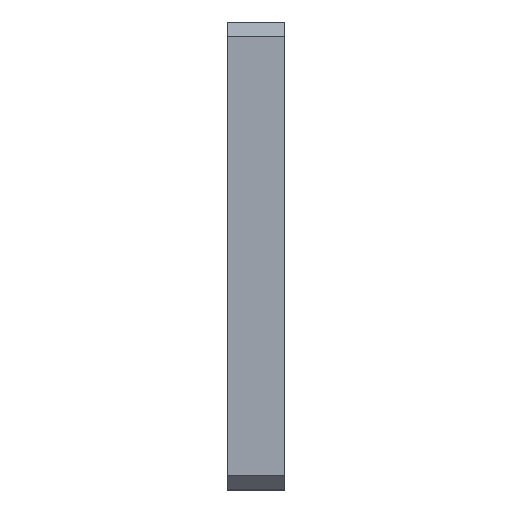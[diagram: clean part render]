
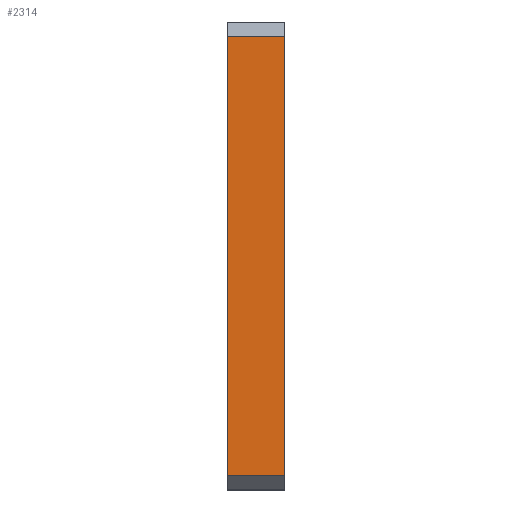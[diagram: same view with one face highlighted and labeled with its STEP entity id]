
A CAD part, left-side view. The second image highlights one B-rep face of the part: STEP entity #2314.
In plain terms, the highlighted planar face has unit normal (-1, 0, 0).
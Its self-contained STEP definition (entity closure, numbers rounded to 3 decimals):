
#120 = ORIENTED_EDGE ( 'NONE', *, *, #738, .T. ) ;
#269 = CARTESIAN_POINT ( 'NONE',  ( -59., 8., 30.5 ) ) ;
#498 = EDGE_CURVE ( 'NONE', #1208, #1476, #2996, .T. ) ;
#534 = PLANE ( 'NONE',  #1113 ) ;
#614 = DIRECTION ( 'NONE',  ( 0., 0., 1. ) ) ;
#639 = CARTESIAN_POINT ( 'NONE',  ( -59., 8., 30.5 ) ) ;
#738 = EDGE_CURVE ( 'NONE', #2734, #1476, #2394, .T. ) ;
#786 = FACE_OUTER_BOUND ( 'NONE', #3308, .T. ) ;
#806 = DIRECTION ( 'NONE',  ( 0., 1., 0. ) ) ;
#849 = VECTOR ( 'NONE', #614, 1000. ) ;
#1000 = LINE ( 'NONE', #3410, #2319 ) ;
#1016 = DIRECTION ( 'NONE',  ( 0., -1., 0. ) ) ;
#1027 = CARTESIAN_POINT ( 'NONE',  ( -59., 0., 32.5 ) ) ;
#1082 = VERTEX_POINT ( 'NONE', #1179 ) ;
#1113 = AXIS2_PLACEMENT_3D ( 'NONE', #2593, #2882, #1316 ) ;
#1149 = VECTOR ( 'NONE', #2575, 1000. ) ;
#1179 = CARTESIAN_POINT ( 'NONE',  ( -59., 0., -30.5 ) ) ;
#1208 = VERTEX_POINT ( 'NONE', #3020 ) ;
#1249 = ORIENTED_EDGE ( 'NONE', *, *, #1945, .T. ) ;
#1304 = VECTOR ( 'NONE', #806, 1000. ) ;
#1316 = DIRECTION ( 'NONE',  ( 0., 0., -1. ) ) ;
#1476 = VERTEX_POINT ( 'NONE', #639 ) ;
#1812 = CARTESIAN_POINT ( 'NONE',  ( -59., 0., 30.5 ) ) ;
#1945 = EDGE_CURVE ( 'NONE', #1208, #1082, #1000, .T. ) ;
#1999 = LINE ( 'NONE', #1027, #1149 ) ;
#2314 = ADVANCED_FACE ( 'NONE', ( #786 ), #534, .F. ) ;
#2319 = VECTOR ( 'NONE', #1016, 1000. ) ;
#2394 = LINE ( 'NONE', #269, #1304 ) ;
#2575 = DIRECTION ( 'NONE',  ( 0., 0., 1. ) ) ;
#2593 = CARTESIAN_POINT ( 'NONE',  ( -59., 8., 32.5 ) ) ;
#2734 = VERTEX_POINT ( 'NONE', #1812 ) ;
#2882 = DIRECTION ( 'NONE',  ( 1., 0., 0. ) ) ;
#2996 = LINE ( 'NONE', #3312, #849 ) ;
#3020 = CARTESIAN_POINT ( 'NONE',  ( -59., 8., -30.5 ) ) ;
#3041 = EDGE_CURVE ( 'NONE', #1082, #2734, #1999, .T. ) ;
#3092 = ORIENTED_EDGE ( 'NONE', *, *, #498, .F. ) ;
#3269 = ORIENTED_EDGE ( 'NONE', *, *, #3041, .T. ) ;
#3308 = EDGE_LOOP ( 'NONE', ( #3269, #120, #3092, #1249 ) ) ;
#3312 = CARTESIAN_POINT ( 'NONE',  ( -59., 8., 32.5 ) ) ;
#3410 = CARTESIAN_POINT ( 'NONE',  ( -59., 8., -30.5 ) ) ;
